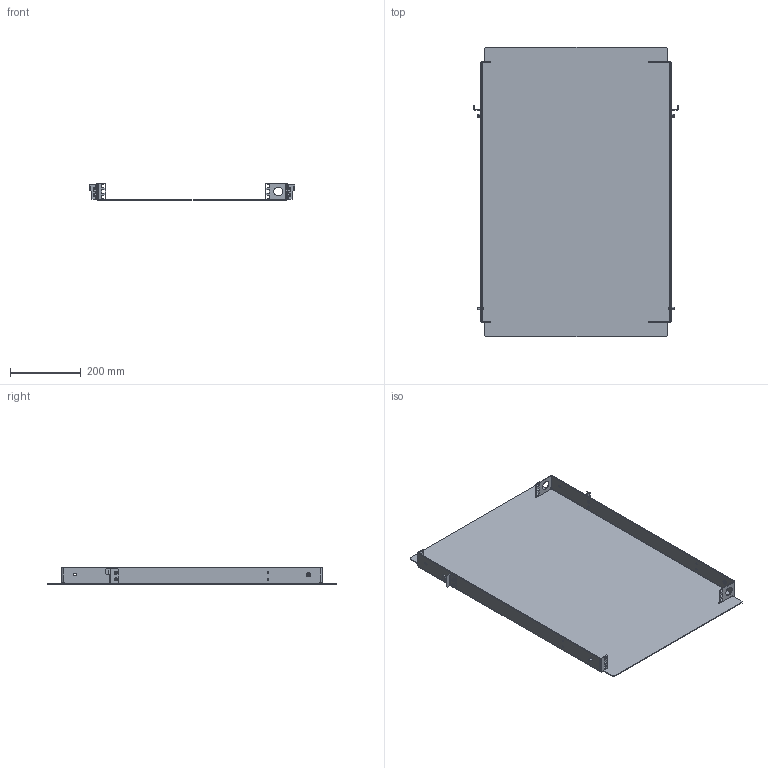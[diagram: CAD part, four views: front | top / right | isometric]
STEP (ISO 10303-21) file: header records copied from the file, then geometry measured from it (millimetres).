
FILE_DESCRIPTION (( 'STEP AP203' ), '1' );
FILE_NAME ('152-5044 20170418.STEP', '2017-04-18T20:27:09', ( '' ), ( '' ), 'SwSTEP 2.0', 'SolidWorks 2016', '' );
FILE_SCHEMA (( 'CONFIG_CONTROL_DESIGN' ));
Length unit declared in the file: inch
Products named in the file (7): SPP_SPPM6-12MMZC; NNYXXXX-ZZ_NNY0832-ZC; 152-5044 20170418; 108-5044-003M Rev1; 108-5044-002 Rev2_-1; SPP_SPP0832-0500ZC; 108-5044-003 Rev1_-1
Assembly tree (13 placements, depth 2):
  152-5044 20170418
    108-5044-002 Rev2_-1
    108-5044-003 Rev1_-1
    108-5044-003M Rev1
    SPP_SPP0832-0500ZC  x4
    NNYXXXX-ZZ_NNY0832-ZC  x4
    SPP_SPPM6-12MMZC  x2
Bounding box: 581.15 x 819.96 x 47.24 mm (x, y, z)
Volume: 1163283.3 mm3; surface area: 1040662.5 mm2
Topology: 13 solids, 13 shells, 492 faces, 1180 edges, 720 vertices
Faces by surface type: plane 280, cylinder 144, torus 28, cone 20, sphere 12, bspline 8
Entity records: 10875 total; most frequent: CARTESIAN_POINT 2106, DIRECTION 1636, ORIENTED_EDGE 1604, EDGE_CURVE 802, AXIS2_PLACEMENT_3D 552, VECTOR 532, LINE 532, VERTEX_POINT 496
